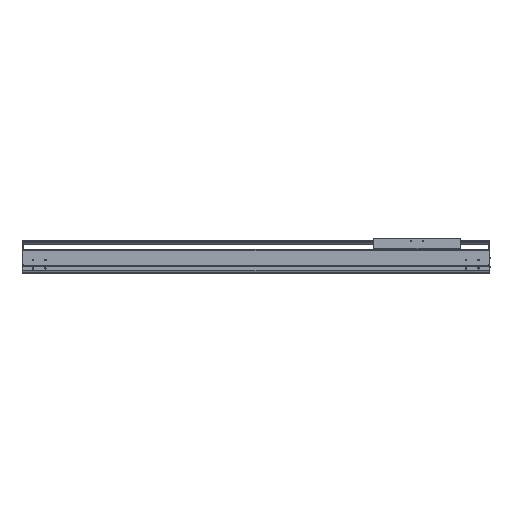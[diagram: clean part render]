
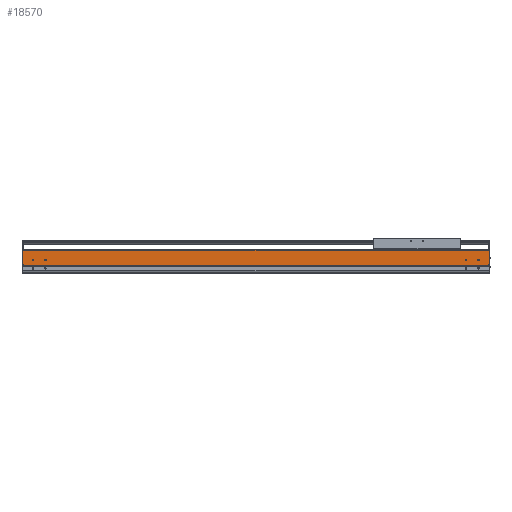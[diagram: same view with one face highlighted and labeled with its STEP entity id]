
A CAD part, top view. The second image highlights one B-rep face of the part: STEP entity #18570.
In plain terms, the highlighted planar face has unit normal (0, 0, 1).
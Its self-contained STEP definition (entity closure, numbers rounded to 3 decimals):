
#1911=DIRECTION('',(1.,0.,0.));
#1912=VECTOR('',#1911,2.);
#1913=CARTESIAN_POINT('',(0.,34.65,107.));
#1914=LINE('',#1913,#1912);
#1919=CARTESIAN_POINT('',(-42.,54.,107.));
#1920=DIRECTION('',(0.,0.,-1.));
#1921=DIRECTION('',(1.,0.,0.));
#1922=AXIS2_PLACEMENT_3D('',#1919,#1920,#1921);
#1924=CARTESIAN_POINT('',(-42.,54.,107.));
#1925=DIRECTION('',(0.,0.,-1.));
#1926=DIRECTION('',(-1.,0.,0.));
#1927=AXIS2_PLACEMENT_3D('',#1924,#1925,#1926);
#1929=CARTESIAN_POINT('',(-92.,54.,107.));
#1930=DIRECTION('',(0.,0.,-1.));
#1931=DIRECTION('',(1.,0.,0.));
#1932=AXIS2_PLACEMENT_3D('',#1929,#1930,#1931);
#1934=CARTESIAN_POINT('',(-92.,54.,107.));
#1935=DIRECTION('',(0.,0.,-1.));
#1936=DIRECTION('',(-1.,0.,0.));
#1937=AXIS2_PLACEMENT_3D('',#1934,#1935,#1936);
#1939=CARTESIAN_POINT('',(-1844.,54.,107.));
#1940=DIRECTION('',(0.,0.,-1.));
#1941=DIRECTION('',(1.,0.,0.));
#1942=AXIS2_PLACEMENT_3D('',#1939,#1940,#1941);
#1944=CARTESIAN_POINT('',(-1844.,54.,107.));
#1945=DIRECTION('',(0.,0.,-1.));
#1946=DIRECTION('',(-1.,0.,0.));
#1947=AXIS2_PLACEMENT_3D('',#1944,#1945,#1946);
#1949=CARTESIAN_POINT('',(-1794.,54.,107.));
#1950=DIRECTION('',(0.,0.,-1.));
#1951=DIRECTION('',(1.,0.,0.));
#1952=AXIS2_PLACEMENT_3D('',#1949,#1950,#1951);
#1954=CARTESIAN_POINT('',(-1794.,54.,107.));
#1955=DIRECTION('',(0.,0.,-1.));
#1956=DIRECTION('',(-1.,0.,0.));
#1957=AXIS2_PLACEMENT_3D('',#1954,#1955,#1956);
#1959=DIRECTION('',(0.,-1.,0.));
#1960=VECTOR('',#1959,2.55);
#1961=CARTESIAN_POINT('',(-1884.,34.65,107.));
#1962=LINE('',#1961,#1960);
#1963=DIRECTION('',(0.,-1.,0.));
#1964=VECTOR('',#1963,58.85);
#1965=CARTESIAN_POINT('',(-1886.,93.5,107.));
#1966=LINE('',#1965,#1964);
#1967=DIRECTION('',(0.,1.,0.));
#1968=VECTOR('',#1967,58.85);
#1969=CARTESIAN_POINT('',(2.,34.65,107.));
#1970=LINE('',#1969,#1968);
#1971=DIRECTION('',(0.,1.,0.));
#1972=VECTOR('',#1971,2.55);
#1973=CARTESIAN_POINT('',(0.,32.1,107.));
#1974=LINE('',#1973,#1972);
#2083=DIRECTION('',(1.,0.,0.));
#2084=VECTOR('',#2083,2.);
#2085=CARTESIAN_POINT('',(-1886.,34.65,107.));
#2086=LINE('',#2085,#2084);
#2095=DIRECTION('',(-1.,0.,0.));
#2096=VECTOR('',#2095,1888.);
#2097=CARTESIAN_POINT('',(2.,93.5,107.));
#2098=LINE('',#2097,#2096);
#11495=DIRECTION('',(1.,0.,0.));
#11496=VECTOR('',#11495,1884.);
#11497=CARTESIAN_POINT('',(-1884.,32.1,107.));
#11498=LINE('',#11497,#11496);
#12709=CARTESIAN_POINT('',(-1886.,34.65,107.));
#12710=VERTEX_POINT('',#12709);
#12711=CARTESIAN_POINT('',(-1886.,93.5,107.));
#12712=VERTEX_POINT('',#12711);
#12933=CARTESIAN_POINT('',(-1884.,32.1,107.));
#12934=VERTEX_POINT('',#12933);
#13005=CARTESIAN_POINT('',(0.,32.1,107.));
#13006=VERTEX_POINT('',#13005);
#13509=CARTESIAN_POINT('',(-39.5,54.,107.));
#13510=CARTESIAN_POINT('',(-44.5,54.,107.));
#13511=VERTEX_POINT('',#13509);
#13512=VERTEX_POINT('',#13510);
#13513=CARTESIAN_POINT('',(-89.5,54.,107.));
#13514=CARTESIAN_POINT('',(-94.5,54.,107.));
#13515=VERTEX_POINT('',#13513);
#13516=VERTEX_POINT('',#13514);
#13517=CARTESIAN_POINT('',(-1841.5,54.,107.));
#13518=CARTESIAN_POINT('',(-1846.5,54.,107.));
#13519=VERTEX_POINT('',#13517);
#13520=VERTEX_POINT('',#13518);
#13521=CARTESIAN_POINT('',(-1791.5,54.,107.));
#13522=CARTESIAN_POINT('',(-1796.5,54.,107.));
#13523=VERTEX_POINT('',#13521);
#13524=VERTEX_POINT('',#13522);
#14756=CARTESIAN_POINT('',(2.,34.65,107.));
#14757=VERTEX_POINT('',#14756);
#14758=CARTESIAN_POINT('',(2.,93.5,107.));
#14759=VERTEX_POINT('',#14758);
#14978=CARTESIAN_POINT('',(0.,34.65,107.));
#14979=VERTEX_POINT('',#14978);
#15290=CARTESIAN_POINT('',(-1884.,34.65,107.));
#15291=VERTEX_POINT('',#15290);
#18528=CARTESIAN_POINT('',(-942.,62.8,107.));
#18529=DIRECTION('',(0.,0.,1.));
#18530=DIRECTION('',(0.,-1.,0.));
#18531=AXIS2_PLACEMENT_3D('',#18528,#18529,#18530);
#18532=PLANE('',#18531);
#18533=ORIENTED_EDGE('',*,*,#16043,.F.);
#18535=ORIENTED_EDGE('',*,*,#18534,.F.);
#18536=ORIENTED_EDGE('',*,*,#17126,.F.);
#18538=ORIENTED_EDGE('',*,*,#18537,.F.);
#18539=ORIENTED_EDGE('',*,*,#18326,.F.);
#18540=ORIENTED_EDGE('',*,*,#18521,.F.);
#18541=ORIENTED_EDGE('',*,*,#16651,.F.);
#18543=ORIENTED_EDGE('',*,*,#18542,.F.);
#18544=EDGE_LOOP('',(#18533,#18535,#18536,#18538,#18539,#18540,#18541,#18543));
#18545=FACE_OUTER_BOUND('',#18544,.F.);
#18547=ORIENTED_EDGE('',*,*,#18546,.F.);
#18549=ORIENTED_EDGE('',*,*,#18548,.F.);
#18550=EDGE_LOOP('',(#18547,#18549));
#18551=FACE_BOUND('',#18550,.F.);
#18553=ORIENTED_EDGE('',*,*,#18552,.F.);
#18555=ORIENTED_EDGE('',*,*,#18554,.F.);
#18556=EDGE_LOOP('',(#18553,#18555));
#18557=FACE_BOUND('',#18556,.F.);
#18559=ORIENTED_EDGE('',*,*,#18558,.F.);
#18561=ORIENTED_EDGE('',*,*,#18560,.F.);
#18562=EDGE_LOOP('',(#18559,#18561));
#18563=FACE_BOUND('',#18562,.F.);
#18565=ORIENTED_EDGE('',*,*,#18564,.F.);
#18567=ORIENTED_EDGE('',*,*,#18566,.F.);
#18568=EDGE_LOOP('',(#18565,#18567));
#18569=FACE_BOUND('',#18568,.F.);
#18570=ADVANCED_FACE('',(#18545,#18551,#18557,#18563,#18569),#18532,.T.);
#1923=CIRCLE('',#1922,2.5);
#1928=CIRCLE('',#1927,2.5);
#1933=CIRCLE('',#1932,2.5);
#1938=CIRCLE('',#1937,2.5);
#1943=CIRCLE('',#1942,2.5);
#1948=CIRCLE('',#1947,2.5);
#1953=CIRCLE('',#1952,2.5);
#1958=CIRCLE('',#1957,2.5);
#16043=EDGE_CURVE('',#15291,#12934,#1962,.T.);
#16651=EDGE_CURVE('',#13006,#14979,#1974,.T.);
#17126=EDGE_CURVE('',#12712,#12710,#1966,.T.);
#18326=EDGE_CURVE('',#14757,#14759,#1970,.T.);
#18521=EDGE_CURVE('',#14979,#14757,#1914,.T.);
#18534=EDGE_CURVE('',#12710,#15291,#2086,.T.);
#18537=EDGE_CURVE('',#14759,#12712,#2098,.T.);
#18542=EDGE_CURVE('',#12934,#13006,#11498,.T.);
#18546=EDGE_CURVE('',#13515,#13516,#1933,.T.);
#18548=EDGE_CURVE('',#13516,#13515,#1938,.T.);
#18552=EDGE_CURVE('',#13519,#13520,#1943,.T.);
#18554=EDGE_CURVE('',#13520,#13519,#1948,.T.);
#18558=EDGE_CURVE('',#13523,#13524,#1953,.T.);
#18560=EDGE_CURVE('',#13524,#13523,#1958,.T.);
#18564=EDGE_CURVE('',#13511,#13512,#1923,.T.);
#18566=EDGE_CURVE('',#13512,#13511,#1928,.T.);
